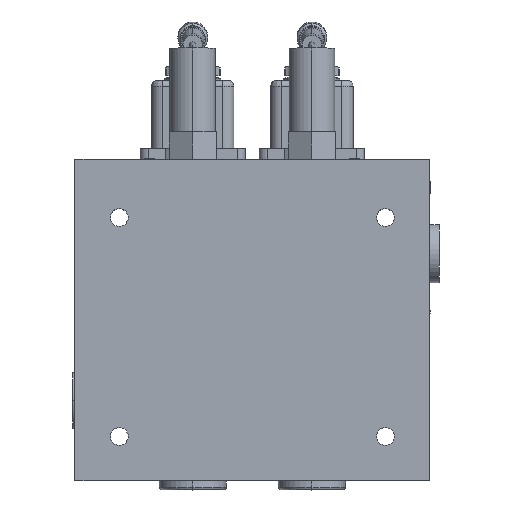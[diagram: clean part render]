
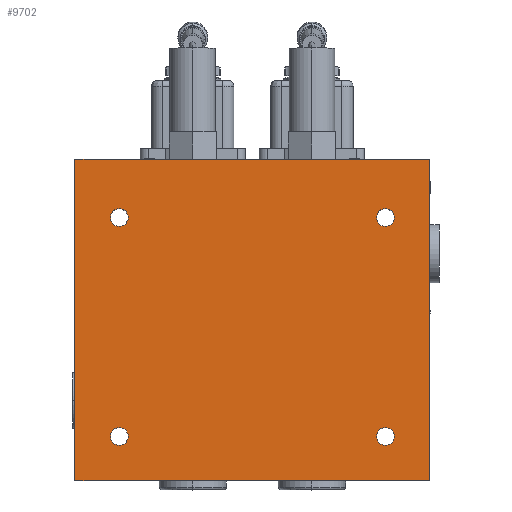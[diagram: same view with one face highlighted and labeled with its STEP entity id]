
A CAD part, top view. The second image highlights one B-rep face of the part: STEP entity #9702.
In plain terms, the highlighted planar face has unit normal (0, 0, 1).
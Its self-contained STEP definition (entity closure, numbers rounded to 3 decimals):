
#1271=DIRECTION('',(0.,-1.,0.));
#1272=VECTOR('',#1271,116.);
#1273=CARTESIAN_POINT('',(-64.,58.,20.));
#1274=LINE('',#1273,#1272);
#1278=DIRECTION('',(-1.,0.,0.));
#1279=VECTOR('',#1278,128.);
#1280=CARTESIAN_POINT('',(64.,58.,20.));
#1281=LINE('',#1280,#1279);
#1285=DIRECTION('',(0.,1.,0.));
#1286=VECTOR('',#1285,116.);
#1287=CARTESIAN_POINT('',(64.,-58.,20.));
#1288=LINE('',#1287,#1286);
#1292=DIRECTION('',(1.,0.,0.));
#1293=VECTOR('',#1292,128.);
#1294=CARTESIAN_POINT('',(-64.,-58.,20.));
#1295=LINE('',#1294,#1293);
#1299=CARTESIAN_POINT('',(48.,37.,20.));
#1300=DIRECTION('',(0.,0.,1.));
#1301=DIRECTION('',(0.,1.,0.));
#1302=AXIS2_PLACEMENT_3D('',#1299,#1300,#1301);
#1307=CARTESIAN_POINT('',(48.,37.,20.));
#1308=DIRECTION('',(0.,0.,1.));
#1309=DIRECTION('',(0.,-1.,0.));
#1310=AXIS2_PLACEMENT_3D('',#1307,#1308,#1309);
#1315=CARTESIAN_POINT('',(48.,-42.,20.));
#1316=DIRECTION('',(0.,0.,1.));
#1317=DIRECTION('',(0.,1.,0.));
#1318=AXIS2_PLACEMENT_3D('',#1315,#1316,#1317);
#1323=CARTESIAN_POINT('',(48.,-42.,20.));
#1324=DIRECTION('',(0.,0.,1.));
#1325=DIRECTION('',(0.,-1.,0.));
#1326=AXIS2_PLACEMENT_3D('',#1323,#1324,#1325);
#1331=CARTESIAN_POINT('',(-48.,37.,20.));
#1332=DIRECTION('',(0.,0.,1.));
#1333=DIRECTION('',(0.,1.,0.));
#1334=AXIS2_PLACEMENT_3D('',#1331,#1332,#1333);
#1339=CARTESIAN_POINT('',(-48.,37.,20.));
#1340=DIRECTION('',(0.,0.,1.));
#1341=DIRECTION('',(0.,-1.,0.));
#1342=AXIS2_PLACEMENT_3D('',#1339,#1340,#1341);
#1347=CARTESIAN_POINT('',(-48.,-42.,20.));
#1348=DIRECTION('',(0.,0.,1.));
#1349=DIRECTION('',(0.,1.,0.));
#1350=AXIS2_PLACEMENT_3D('',#1347,#1348,#1349);
#1355=CARTESIAN_POINT('',(-48.,-42.,20.));
#1356=DIRECTION('',(0.,0.,1.));
#1357=DIRECTION('',(0.,-1.,0.));
#1358=AXIS2_PLACEMENT_3D('',#1355,#1356,#1357);
#7765=CARTESIAN_POINT('',(-64.,58.,20.));
#7766=CARTESIAN_POINT('',(-64.,-58.,20.));
#7767=VERTEX_POINT('',#7765);
#7768=VERTEX_POINT('',#7766);
#7769=CARTESIAN_POINT('',(64.,-58.,20.));
#7770=VERTEX_POINT('',#7769);
#7771=CARTESIAN_POINT('',(64.,58.,20.));
#7772=VERTEX_POINT('',#7771);
#7841=CARTESIAN_POINT('',(48.,40.2,20.));
#7842=CARTESIAN_POINT('',(48.,33.8,20.));
#7843=VERTEX_POINT('',#7841);
#7844=VERTEX_POINT('',#7842);
#7857=CARTESIAN_POINT('',(48.,-38.8,20.));
#7858=CARTESIAN_POINT('',(48.,-45.2,20.));
#7859=VERTEX_POINT('',#7857);
#7860=VERTEX_POINT('',#7858);
#7873=CARTESIAN_POINT('',(-48.,40.2,20.));
#7874=CARTESIAN_POINT('',(-48.,33.8,20.));
#7875=VERTEX_POINT('',#7873);
#7876=VERTEX_POINT('',#7874);
#7889=CARTESIAN_POINT('',(-48.,-38.8,20.));
#7890=CARTESIAN_POINT('',(-48.,-45.2,20.));
#7891=VERTEX_POINT('',#7889);
#7892=VERTEX_POINT('',#7890);
#9665=CARTESIAN_POINT('',(0.,0.,20.));
#9666=DIRECTION('',(0.,0.,1.));
#9667=DIRECTION('',(1.,0.,0.));
#9668=AXIS2_PLACEMENT_3D('',#9665,#9666,#9667);
#9669=PLANE('',#9668);
#9670=ORIENTED_EDGE('',*,*,#9218,.F.);
#9672=ORIENTED_EDGE('',*,*,#9671,.F.);
#9674=ORIENTED_EDGE('',*,*,#9673,.F.);
#9675=ORIENTED_EDGE('',*,*,#9652,.F.);
#9676=EDGE_LOOP('',(#9670,#9672,#9674,#9675));
#9677=FACE_OUTER_BOUND('',#9676,.F.);
#9679=ORIENTED_EDGE('',*,*,#9678,.T.);
#9681=ORIENTED_EDGE('',*,*,#9680,.T.);
#9682=EDGE_LOOP('',(#9679,#9681));
#9683=FACE_BOUND('',#9682,.F.);
#9685=ORIENTED_EDGE('',*,*,#9684,.T.);
#9687=ORIENTED_EDGE('',*,*,#9686,.T.);
#9688=EDGE_LOOP('',(#9685,#9687));
#9689=FACE_BOUND('',#9688,.F.);
#9691=ORIENTED_EDGE('',*,*,#9690,.T.);
#9693=ORIENTED_EDGE('',*,*,#9692,.T.);
#9694=EDGE_LOOP('',(#9691,#9693));
#9695=FACE_BOUND('',#9694,.F.);
#9697=ORIENTED_EDGE('',*,*,#9696,.T.);
#9699=ORIENTED_EDGE('',*,*,#9698,.T.);
#9700=EDGE_LOOP('',(#9697,#9699));
#9701=FACE_BOUND('',#9700,.F.);
#9702=ADVANCED_FACE('',(#9677,#9683,#9689,#9695,#9701),#9669,.T.);
#1303=CIRCLE('',#1302,3.2);
#1311=CIRCLE('',#1310,3.2);
#1319=CIRCLE('',#1318,3.2);
#1327=CIRCLE('',#1326,3.2);
#1335=CIRCLE('',#1334,3.2);
#1343=CIRCLE('',#1342,3.2);
#1351=CIRCLE('',#1350,3.2);
#1359=CIRCLE('',#1358,3.2);
#9218=EDGE_CURVE('',#7767,#7768,#1274,.T.);
#9652=EDGE_CURVE('',#7768,#7770,#1295,.T.);
#9671=EDGE_CURVE('',#7772,#7767,#1281,.T.);
#9673=EDGE_CURVE('',#7770,#7772,#1288,.T.);
#9678=EDGE_CURVE('',#7843,#7844,#1303,.T.);
#9680=EDGE_CURVE('',#7844,#7843,#1311,.T.);
#9684=EDGE_CURVE('',#7859,#7860,#1319,.T.);
#9686=EDGE_CURVE('',#7860,#7859,#1327,.T.);
#9690=EDGE_CURVE('',#7875,#7876,#1335,.T.);
#9692=EDGE_CURVE('',#7876,#7875,#1343,.T.);
#9696=EDGE_CURVE('',#7891,#7892,#1351,.T.);
#9698=EDGE_CURVE('',#7892,#7891,#1359,.T.);
